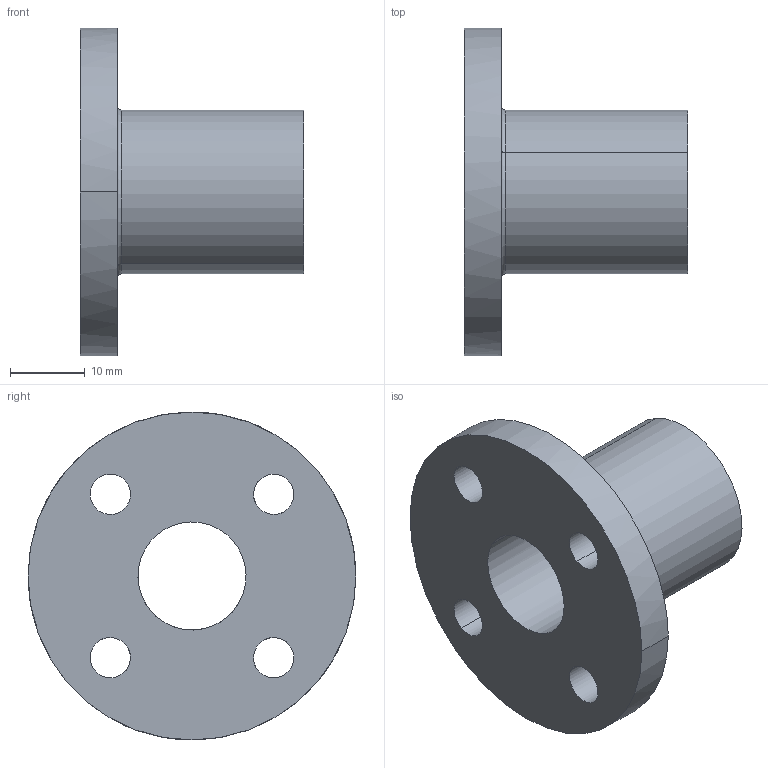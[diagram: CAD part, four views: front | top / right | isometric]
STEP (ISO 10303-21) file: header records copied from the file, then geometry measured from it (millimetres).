
FILE_DESCRIPTION(('CATIA V5 STEP Exchange'),'2;1');
FILE_NAME('C:\Users\aa\Documents\이댈\TM\TTM\TTM14.stp','2020-03-24T02:19:09+00:00',('none'),('none'),'CATIA Version 5 Release 20 SP 7 (IN-10)','CATIA V5 STEP AP203','none');
FILE_SCHEMA(('CONFIG_CONTROL_DESIGN'));
Length unit declared in the file: millimetre
Products named in the file (1): TTM14
Bounding box: 30 x 44 x 44 mm (x, y, z)
Volume: 11697.8 mm3; surface area: 6637.8 mm2
Topology: 1 solids, 1 shells, 19 faces, 46 edges, 30 vertices
Faces by surface type: cylinder 14, plane 3, torus 2
Entity records: 780 total; most frequent: CARTESIAN_POINT 292, ORIENTED_EDGE 92, DIRECTION 73, EDGE_CURVE 46, AXIS2_PLACEMENT_3D 41, EDGE_LOOP 30, VERTEX_POINT 30, CIRCLE 21
